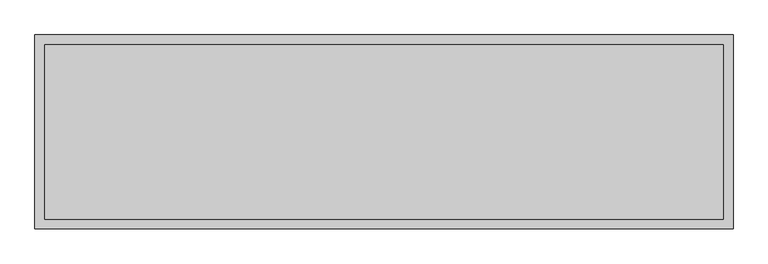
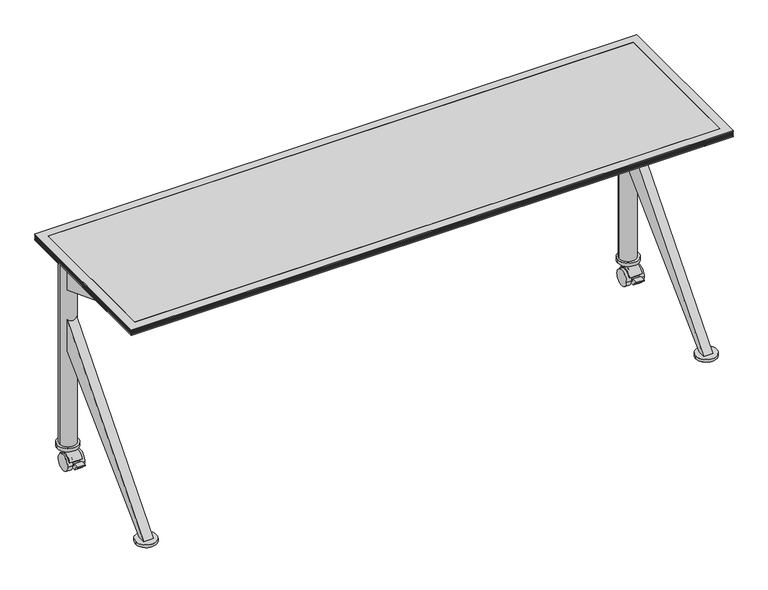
"""IFC4 building model written with IfcOpenShell, lengths in millimetres: furniture geometry, Coalesse_AM_Table_Conference_Ballet_Rectangular_KBase : Folding - 72L x 20W."""

from ifc_helpers import new_model, si_unit, point, frame, frame_2d, origin, origin_with_axes, place, context, project, spatial, polyline, circle_curve, trimmed, segment, composite_curve, outline, extrude, faceted_brep, source, transform, mapped, element, save


def furniture_6361e24f(model_context):
    return source(origin(), model_context, "Body", "SolidModel", [
        extrude(outline(composite_curve([segment(trimmed(circle_curve(frame_2d((-851.8092495, -222.25)), 25.4), [point((-877.2092495, -222.25))], [point((-826.4092495, -222.25))], False, "CARTESIAN"), True, "CONTINUOUS"), segment(trimmed(circle_curve(frame_2d((-851.8092495, -222.25)), 25.4), [point((-826.4092495, -222.25))], [point((-877.2092495, -222.25))], False, "CARTESIAN"), True, "CONTINUOUS")], self_intersect=False)), origin_with_axes(), (0.0, 0.0, 1.0), 4.2936144),
        extrude(outline(composite_curve([segment(trimmed(circle_curve(frame_2d((851.0624629, -222.25)), 25.4), [point((825.6624629, -222.25))], [point((876.4624629, -222.25))], False, "CARTESIAN"), True, "CONTINUOUS"), segment(trimmed(circle_curve(frame_2d((851.0624629, -222.25)), 25.4), [point((876.4624629, -222.25))], [point((825.6624629, -222.25))], False, "CARTESIAN"), True, "CONTINUOUS")], self_intersect=False)), origin_with_axes(), (0.0, 0.0, 1.0), 4.2936144),
        extrude(outline(composite_curve([segment(polyline([(198.5604217, 14.7931869), (195.6491351, 16.4051117)]), True, "CONTINUOUS"), segment(trimmed(circle_curve(frame_2d((172.2336856, 24.9907393)), 24.9398531), [point((195.6491351, 16.4051117))], [point((149.7459564, 35.7749086))], True, "CARTESIAN"), True, "CONTINUOUS"), segment(polyline([(149.7459564, 35.7749086), (146.3203751, 36.8601197)]), True, "CONTINUOUS"), segment(trimmed(circle_curve(frame_2d((171.5646326, 26.7032164)), 27.2109394), [point((146.3203751, 36.8601197))], [point((183.1847122, 51.3082762))], False, "CARTESIAN"), True, "CONTINUOUS"), segment(trimmed(circle_curve(frame_2d((173.1211664, 25.8930561)), 27.3351124), [point((183.1847122, 51.3082762))], [point((198.5604217, 35.8956886))], False, "CARTESIAN"), True, "CONTINUOUS"), segment(trimmed(circle_curve(frame_2d((171.7258895, 25.3444377)), 28.8343721), [point((198.5604217, 35.8956886))], [point((198.5604217, 14.7931869))], False, "CARTESIAN"), True, "CONTINUOUS")], self_intersect=False)), frame((831.0279182, 0.0, 0.0), z_axis=(1.0, 0.0, 0.0), x_axis=(0.0, 1.0, 0.0)), (0.0, 0.0, 1.0), 37.985857),
        extrude(outline(composite_curve([segment(trimmed(circle_curve(frame_2d((172.2336856, 24.9907393)), 24.9398531), [point((147.2938325, 24.9907393))], [point((197.1735388, 24.9907393))], False, "CARTESIAN"), True, "CONTINUOUS"), segment(trimmed(circle_curve(frame_2d((172.2336856, 24.9907393)), 24.9398531), [point((197.1735388, 24.9907393))], [point((147.2938325, 24.9907393))], False, "CARTESIAN"), True, "CONTINUOUS")], self_intersect=False)), frame((821.8801992, 0.0, 0.0), z_axis=(1.0, 0.0, 0.0), x_axis=(0.0, 1.0, 0.0)), (0.0, 0.0, 1.0), 14.732),
        extrude(outline(composite_curve([segment(polyline([(183.1847122, 63.5225277), (198.5604217, 63.5225277), (198.5604217, 35.8956886)]), True, "CONTINUOUS"), segment(trimmed(circle_curve(frame_2d((171.7258895, 25.3444377)), 28.8343721), [point((198.5604217, 35.8956886))], [point((198.5604217, 14.7931869))], False, "CARTESIAN"), True, "CONTINUOUS"), segment(polyline([(198.5604217, 14.7931869), (185.095607, 22.2484025), (182.0197341, 16.6930892)]), True, "CONTINUOUS"), segment(trimmed(circle_curve(frame_2d((172.327305, 25.0010719)), 12.7658043), [point((182.0197341, 16.6930892))], [point((162.0624455, 17.4117096))], False, "CARTESIAN"), True, "CONTINUOUS"), segment(polyline([(162.0624455, 17.4117096), (136.293848, 17.4117096), (127.3223524, 31.7691038), (120.5969156, 31.7691038), (120.5969156, 35.1210973), (139.6469156, 35.1210973), (139.6469156, 25.0010719), (158.9362269, 25.0010719), (161.1998286, 32.1463658), (146.3203751, 36.8601197)]), True, "CONTINUOUS"), segment(trimmed(circle_curve(frame_2d((171.5646326, 26.7032164)), 27.2109394), [point((146.3203751, 36.8601197))], [point((183.1847122, 51.3082762))], False, "CARTESIAN"), True, "CONTINUOUS"), segment(polyline([(183.1847122, 51.3082762), (183.1847122, 63.5225277)]), True, "CONTINUOUS")], self_intersect=False)), frame((836.6121992, 0.0, 0.0), z_axis=(1.0, 0.0, 0.0), x_axis=(0.0, 1.0, 0.0)), (0.0, 0.0, 1.0), 24.5934543),
        extrude(outline(composite_curve([segment(trimmed(circle_curve(frame_2d((172.2336856, 24.9907393)), 24.9398531), [point((147.2938325, 24.9907393))], [point((197.1735388, 24.9907393))], False, "CARTESIAN"), True, "CONTINUOUS"), segment(trimmed(circle_curve(frame_2d((172.2336856, 24.9907393)), 24.9398531), [point((197.1735388, 24.9907393))], [point((147.2938325, 24.9907393))], False, "CARTESIAN"), True, "CONTINUOUS")], self_intersect=False)), frame((861.2056535, 0.0, 0.0), z_axis=(1.0, 0.0, 0.0), x_axis=(0.0, 1.0, 0.0)), (0.0, 0.0, 1.0), 14.732),
        extrude(outline(composite_curve([segment(trimmed(circle_curve(frame_2d((851.7954026, 189.7212308)), 31.75), [point((883.5454026, 189.7212308))], [point((820.0454026, 189.7212308))], False, "CARTESIAN"), True, "CONTINUOUS"), segment(trimmed(circle_curve(frame_2d((851.7954026, 189.7212308)), 31.75), [point((820.0454026, 189.7212308))], [point((883.5454026, 189.7212308))], False, "CARTESIAN"), True, "CONTINUOUS")], self_intersect=False)), frame((0.0, 0.0, 62.0397209), z_axis=(0.0, 0.0, 1.0), x_axis=(1.0, 0.0, 0.0)), (0.0, 0.0, 1.0), 10.7840801),
        extrude(outline(composite_curve([segment(polyline([(198.5604217, 14.7931869), (195.6491351, 16.4051117)]), True, "CONTINUOUS"), segment(trimmed(circle_curve(frame_2d((172.2336856, 24.9907393)), 24.9398531), [point((195.6491351, 16.4051117))], [point((149.7459564, 35.7749086))], True, "CARTESIAN"), True, "CONTINUOUS"), segment(polyline([(149.7459564, 35.7749086), (146.3203751, 36.8601197)]), True, "CONTINUOUS"), segment(trimmed(circle_curve(frame_2d((171.5646326, 26.7032164)), 27.2109394), [point((146.3203751, 36.8601197))], [point((183.1847122, 51.3082762))], False, "CARTESIAN"), True, "CONTINUOUS"), segment(trimmed(circle_curve(frame_2d((173.1211664, 25.8930561)), 27.3351124), [point((183.1847122, 51.3082762))], [point((198.5604217, 35.8956886))], False, "CARTESIAN"), True, "CONTINUOUS"), segment(trimmed(circle_curve(frame_2d((171.7258895, 25.3444377)), 28.8343721), [point((198.5604217, 35.8956886))], [point((198.5604217, 14.7931869))], False, "CARTESIAN"), True, "CONTINUOUS")], self_intersect=False)), frame((-870.4010267, 0.0, 0.0), z_axis=(1.0, 0.0, 0.0), x_axis=(0.0, 1.0, 0.0)), (0.0, 0.0, 1.0), 37.7563315),
        extrude(outline(composite_curve([segment(trimmed(circle_curve(frame_2d((172.2336856, 24.9907393)), 24.9398531), [point((147.2938325, 24.9907393))], [point((197.1735388, 24.9907393))], False, "CARTESIAN"), True, "CONTINUOUS"), segment(trimmed(circle_curve(frame_2d((172.2336856, 24.9907393)), 24.9398531), [point((197.1735388, 24.9907393))], [point((147.2938325, 24.9907393))], False, "CARTESIAN"), True, "CONTINUOUS")], self_intersect=False)), frame((-838.7822707, 0.0, 0.0), z_axis=(1.0, 0.0, 0.0), x_axis=(0.0, 1.0, 0.0)), (0.0, 0.0, 1.0), 14.732),
        extrude(outline(composite_curve([segment(polyline([(183.1847122, 63.5225277), (198.5604217, 63.5225277), (198.5604217, 35.8956886)]), True, "CONTINUOUS"), segment(trimmed(circle_curve(frame_2d((171.7258895, 25.3444377)), 28.8343721), [point((198.5604217, 35.8956886))], [point((198.5604217, 14.7931869))], False, "CARTESIAN"), True, "CONTINUOUS"), segment(polyline([(198.5604217, 14.7931869), (185.095607, 22.2484025), (182.0197341, 16.6930892)]), True, "CONTINUOUS"), segment(trimmed(circle_curve(frame_2d((172.327305, 25.0010719)), 12.7658043), [point((182.0197341, 16.6930892))], [point((162.0624455, 17.4117096))], False, "CARTESIAN"), True, "CONTINUOUS"), segment(polyline([(162.0624455, 17.4117096), (136.293848, 17.4117096), (127.3223524, 31.7691038), (120.5969156, 31.7691038), (120.5969156, 35.1210973), (139.6469156, 35.1210973), (139.6469156, 25.0010719), (158.9362269, 25.0010719), (161.1998286, 32.1463658), (146.3203751, 36.8601197)]), True, "CONTINUOUS"), segment(trimmed(circle_curve(frame_2d((171.5646326, 26.7032164)), 27.2109394), [point((146.3203751, 36.8601197))], [point((183.1847122, 51.3082762))], False, "CARTESIAN"), True, "CONTINUOUS"), segment(polyline([(183.1847122, 51.3082762), (183.1847122, 63.5225277)]), True, "CONTINUOUS")], self_intersect=False)), frame((-861.2056535, 0.0, 0.0), z_axis=(1.0, 0.0, 0.0), x_axis=(0.0, 1.0, 0.0)), (0.0, 0.0, 1.0), 22.4233828),
        extrude(outline(composite_curve([segment(trimmed(circle_curve(frame_2d((172.2336856, 24.9907393)), 24.9398531), [point((147.2938325, 24.9907393))], [point((197.1735388, 24.9907393))], False, "CARTESIAN"), True, "CONTINUOUS"), segment(trimmed(circle_curve(frame_2d((172.2336856, 24.9907393)), 24.9398531), [point((197.1735388, 24.9907393))], [point((147.2938325, 24.9907393))], False, "CARTESIAN"), True, "CONTINUOUS")], self_intersect=False)), frame((-875.9376535, 0.0, 0.0), z_axis=(1.0, 0.0, 0.0), x_axis=(0.0, 1.0, 0.0)), (0.0, 0.0, 1.0), 14.732),
        extrude(outline(composite_curve([segment(trimmed(circle_curve(frame_2d((-851.7954026, 189.7212308)), 31.75), [point((-883.5454026, 189.7212308))], [point((-820.0454026, 189.7212308))], False, "CARTESIAN"), True, "CONTINUOUS"), segment(trimmed(circle_curve(frame_2d((-851.7954026, 189.7212308)), 31.75), [point((-820.0454026, 189.7212308))], [point((-883.5454026, 189.7212308))], False, "CARTESIAN"), True, "CONTINUOUS")], self_intersect=False)), frame((0.0, 0.0, 62.0397209), z_axis=(0.0, 0.0, 1.0), x_axis=(1.0, 0.0, 0.0)), (0.0, 0.0, 1.0), 10.7840801),
        extrude(outline(composite_curve([segment(trimmed(circle_curve(frame_2d((-850.9003633, 190.5)), 25.4), [point((-876.3003633, 190.5))], [point((-825.5003633, 190.5))], False, "CARTESIAN"), True, "CONTINUOUS"), segment(trimmed(circle_curve(frame_2d((-850.9003633, 190.5)), 25.4), [point((-825.5003633, 190.5))], [point((-876.3003633, 190.5))], False, "CARTESIAN"), True, "CONTINUOUS")], self_intersect=False)), frame((0.0, 0.0, 72.823801), z_axis=(0.0, 0.0, 1.0), x_axis=(1.0, 0.0, 0.0)), (0.0, 0.0, 1.0), 625.6762232),
        extrude(outline(composite_curve([segment(trimmed(circle_curve(frame_2d((850.9003633, 190.5)), 25.4), [point((825.5003633, 190.5))], [point((876.3003633, 190.5))], False, "CARTESIAN"), True, "CONTINUOUS"), segment(trimmed(circle_curve(frame_2d((850.9003633, 190.5)), 25.4), [point((876.3003633, 190.5))], [point((825.5003633, 190.5))], False, "CARTESIAN"), True, "CONTINUOUS")], self_intersect=False)), frame((0.0, 0.0, 72.823801), z_axis=(0.0, 0.0, 1.0), x_axis=(1.0, 0.0, 0.0)), (0.0, 0.0, 1.0), 625.6762232),
        extrude(outline(polyline([(169.4656271, 577.7388634), (-142.874901, 698.5000242), (-111.124901, 698.5000242), (169.4656271, 641.3500242), (169.4656271, 577.7388634)])), frame((-865.2007845, 0.0, 0.0), z_axis=(1.0, 0.0, 0.0), x_axis=(0.0, 1.0, 0.0)), (0.0, 0.0, 1.0), 28.5877899),
        extrude(outline(polyline([(169.4656271, 381.0), (-211.1375951, 12.7), (-233.3624013, 12.7), (169.4656271, 482.7111245), (169.4656271, 381.0)])), frame((-865.2007845, 0.0, 0.0), z_axis=(1.0, 0.0, 0.0), x_axis=(0.0, 1.0, 0.0)), (0.0, 0.0, 1.0), 28.5877899),
        extrude(outline(polyline([(169.4656271, 577.7388634), (-142.874901, 698.5000242), (-111.124901, 698.5000242), (169.4656271, 641.3500242), (169.4656271, 577.7388634)])), frame((836.6121992, 0.0, 0.0), z_axis=(1.0, 0.0, 0.0), x_axis=(0.0, 1.0, 0.0)), (0.0, 0.0, 1.0), 28.575),
        extrude(outline(polyline([(169.4656271, 381.0), (-211.1375951, 12.7), (-233.3624013, 12.7), (169.4656271, 482.7111245), (169.4656271, 381.0)])), frame((836.6121992, 0.0, 0.0), z_axis=(1.0, 0.0, 0.0), x_axis=(0.0, 1.0, 0.0)), (0.0, 0.0, 1.0), 28.575),
        extrude(outline(composite_curve([segment(trimmed(circle_curve(frame_2d((-851.8092495, -222.25)), 31.75), [point((-883.5592495, -222.25))], [point((-820.0592495, -222.25))], False, "CARTESIAN"), True, "CONTINUOUS"), segment(trimmed(circle_curve(frame_2d((-851.8092495, -222.25)), 31.75), [point((-820.0592495, -222.25))], [point((-883.5592495, -222.25))], False, "CARTESIAN"), True, "CONTINUOUS")], self_intersect=False)), frame((0.0, 0.0, 4.2936144), z_axis=(0.0, 0.0, 1.0), x_axis=(1.0, 0.0, 0.0)), (0.0, 0.0, 1.0), 8.4063856),
        extrude(outline(composite_curve([segment(trimmed(circle_curve(frame_2d((851.0624629, -222.25)), 31.75), [point((819.3124629, -222.25))], [point((882.8124629, -222.25))], False, "CARTESIAN"), True, "CONTINUOUS"), segment(trimmed(circle_curve(frame_2d((851.0624629, -222.25)), 31.75), [point((882.8124629, -222.25))], [point((819.3124629, -222.25))], False, "CARTESIAN"), True, "CONTINUOUS")], self_intersect=False)), frame((0.0, 0.0, 4.2936144), z_axis=(0.0, 0.0, 1.0), x_axis=(1.0, 0.0, 0.0)), (0.0, 0.0, 1.0), 8.4063856),
        faceted_brep([(-914.4003633, 254.0, 704.85), (-889.0003876, 228.6000242, 698.5000242), (-889.0003876, -228.5999516, 698.5000242), (-914.4003633, -253.9999273, 704.85), (-914.4003633, 254.0, 708.0250242), (-914.4003633, -253.9999273, 708.0250242), (-911.2253755, 250.8250121, 709.6125), (-911.2253755, -250.8249394, 709.6125), (-914.4003633, 254.0, 711.1999758), (-914.4003633, -253.9999273, 711.1999758), (-911.2253755, 250.8250121, 712.7875242), (-911.2253755, -250.8249394, 712.7875242), (-914.4003633, 254.0, 714.375), (-914.4003633, -253.9999273, 714.375), (-911.2253755, 250.8250121, 715.9624758), (-911.2253755, -250.8249394, 715.9624758), (-914.4003633, 254.0, 717.5500242), (-914.4003633, -253.9999273, 717.5500242), (-911.2253755, 250.8250121, 719.1375), (-911.2253755, -250.8249394, 719.1375), (-914.4003633, 254.0, 720.7249758), (-914.4003633, -253.9999273, 720.7249758), (-914.4003633, 254.0, 723.9), (-914.4003633, -253.9999273, 723.9), (-889.0003876, 228.6000242, 723.9), (-889.0003876, -228.5999516, 723.9), (888.9998062, -228.5999516, 698.5000242), (914.399782, -253.9999273, 704.85), (914.399782, -253.9999273, 708.0250242), (911.2247941, -250.8249394, 709.6125), (914.399782, -253.9999273, 711.1999758), (911.2247941, -250.8249394, 712.7875242), (914.399782, -253.9999273, 714.375), (911.2247941, -250.8249394, 715.9624758), (914.399782, -253.9999273, 717.5500242), (911.2247941, -250.8249394, 719.1375), (914.399782, -253.9999273, 720.7249758), (914.399782, -253.9999273, 723.9), (888.9998062, -228.5999516, 723.9), (888.9998062, 228.6000242, 698.5000242), (914.399782, 254.0, 704.85), (914.399782, 254.0, 708.0250242), (911.2247941, 250.8250121, 709.6125), (914.399782, 254.0, 711.1999758), (911.2247941, 250.8250121, 712.7875242), (914.399782, 254.0, 714.375), (911.2247941, 250.8250121, 715.9624758), (914.399782, 254.0, 717.5500242), (911.2247941, 250.8250121, 719.1375), (914.399782, 254.0, 720.7249758), (914.399782, 254.0, 723.9), (888.9998062, 228.6000242, 723.9)], [[[0, 1, 2, 3]], [[4, 0, 3, 5]], [[6, 4, 5, 7]], [[8, 6, 7, 9]], [[10, 8, 9, 11]], [[12, 10, 11, 13]], [[14, 12, 13, 15]], [[16, 14, 15, 17]], [[18, 16, 17, 19]], [[20, 18, 19, 21]], [[22, 20, 21, 23]], [[1, 24, 25, 2]], [[3, 2, 26, 27]], [[5, 3, 27, 28]], [[7, 5, 28, 29]], [[9, 7, 29, 30]], [[11, 9, 30, 31]], [[13, 11, 31, 32]], [[15, 13, 32, 33]], [[17, 15, 33, 34]], [[19, 17, 34, 35]], [[21, 19, 35, 36]], [[23, 21, 36, 37]], [[2, 25, 38, 26]], [[27, 26, 39, 40]], [[28, 27, 40, 41]], [[29, 28, 41, 42]], [[30, 29, 42, 43]], [[31, 30, 43, 44]], [[32, 31, 44, 45]], [[33, 32, 45, 46]], [[34, 33, 46, 47]], [[35, 34, 47, 48]], [[36, 35, 48, 49]], [[37, 36, 49, 50]], [[26, 38, 51, 39]], [[40, 39, 1, 0]], [[41, 40, 0, 4]], [[42, 41, 4, 6]], [[43, 42, 6, 8]], [[44, 43, 8, 10]], [[45, 44, 10, 12]], [[46, 45, 12, 14]], [[47, 46, 14, 16]], [[48, 47, 16, 18]], [[49, 48, 18, 20]], [[50, 49, 20, 22]], [[23, 37, 50, 22], [24, 51, 38, 25]], [[39, 51, 24, 1]]]),
        extrude(outline(polyline([(888.9998062, 228.6000242), (888.9998062, -228.5999516), (-889.0003876, -228.5999516), (-889.0003876, 228.6000242), (888.9998062, 228.6000242)])), frame((0.0, 0.0, 704.85), z_axis=(0.0, 0.0, 1.0), x_axis=(1.0, 0.0, 0.0)), (0.0, 0.0, 1.0), 19.05),
    ])


if __name__ == "__main__":
    model = new_model("IFC4")
    model_context = context("Model", 3, world=origin())
    ifc_project = project(units=[si_unit("LENGTHUNIT", "METRE", prefix="MILLI")], contexts=[model_context])
    site = spatial("IfcSite", under=ifc_project)
    building = spatial("IfcBuilding", under=site)
    placement = place(None, origin())
    furniture_shape = furniture_6361e24f(model_context)
    element("IfcFurniture", 1, ObjectType="Coalesse_AM_Table_Conference_Ballet_Rectangular_KBase : Folding - 72L x 20W", at=placement, inside=building, context=model_context, shape_type="MappedRepresentation", body=[
        mapped(furniture_shape, transform((0.0, 0.0, 0.0), x_axis=(1.0, 0.0, 0.0), y_axis=(0.0, 1.0, 0.0), z_axis=(0.0, 0.0, 1.0))),
    ])
    save(model, "model.ifc")
